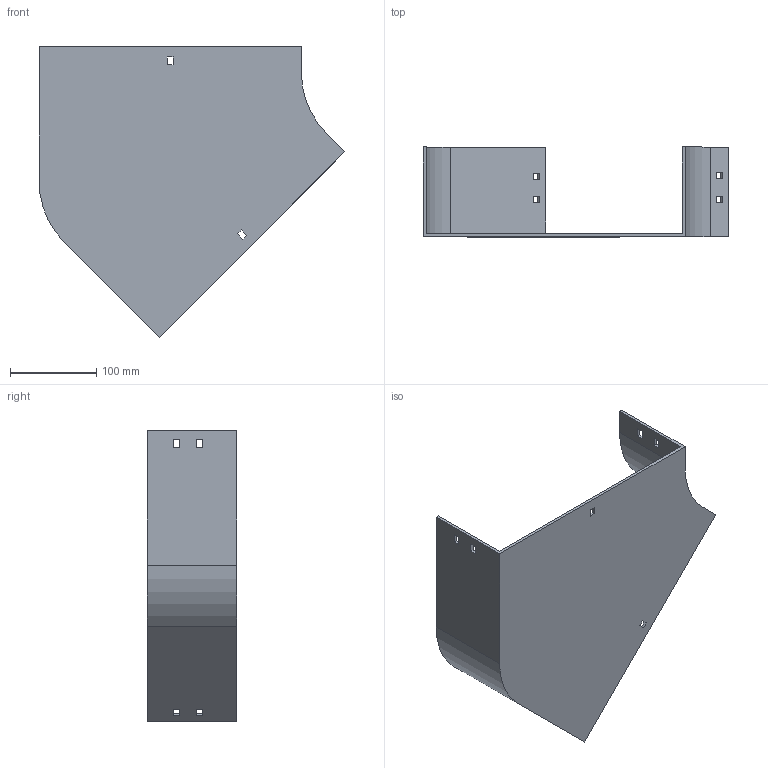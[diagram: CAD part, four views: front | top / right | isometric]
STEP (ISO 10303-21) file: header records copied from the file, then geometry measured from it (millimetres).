
FILE_DESCRIPTION (( 'STEP AP214' ), '1' );
FILE_NAME ('11F1D300.step', '2025-02-21T12:55:05', ( '' ), ( '' ), 'SwSTEP 2.0', 'SolidWorks 2023', '' );
FILE_SCHEMA (( 'AUTOMOTIVE_DESIGN' ));
Length unit declared in the file: millimetre
Products named in the file (1): 11F1D300
Bounding box: 354.5 x 104 x 336.88 mm (x, y, z)
Volume: 469643.1 mm3; surface area: 274922.7 mm2
Topology: 1 solids, 1 shells, 58 faces, 168 edges, 112 vertices
Faces by surface type: plane 54, cylinder 4
Entity records: 1943 total; most frequent: CARTESIAN_POINT 339, ORIENTED_EDGE 336, DIRECTION 294, EDGE_CURVE 168, LINE 160, VECTOR 160, VERTEX_POINT 112, EDGE_LOOP 78
